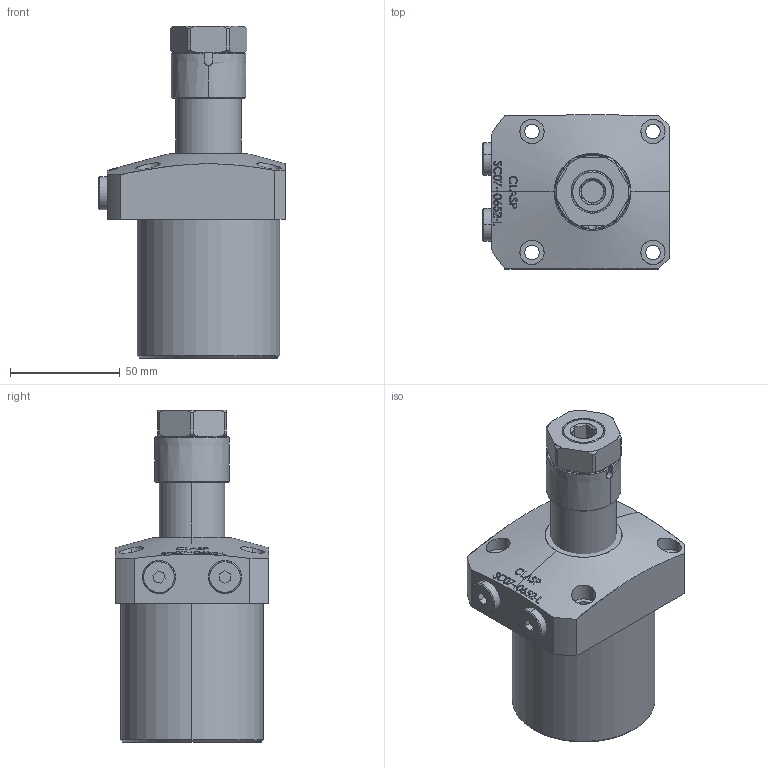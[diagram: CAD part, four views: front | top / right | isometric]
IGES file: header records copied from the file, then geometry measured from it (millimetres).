
Start section: SolidWorks IGES file using analytic representation for surfaces
Global section: file name: D:\karuppas\Clasp\3D model\SWING CYLINDER\Top Mounting swing cylinder\SC07-0652 L\SC07-0652-L.IGS; native system: SolidWorks 2017; preprocessor: SolidWorks 2017; author: pc; date: 220705.232335; units: millimetre
Bounding box: 85 x 70 x 151 mm (x, y, z)
Surface area: 52919.2 mm2 (no closed solid volume)
Topology: 0 solids, 0 shells, 365 faces, 6371 edges, 6370 vertices
Faces by surface type: bspline 253, revolution 112
